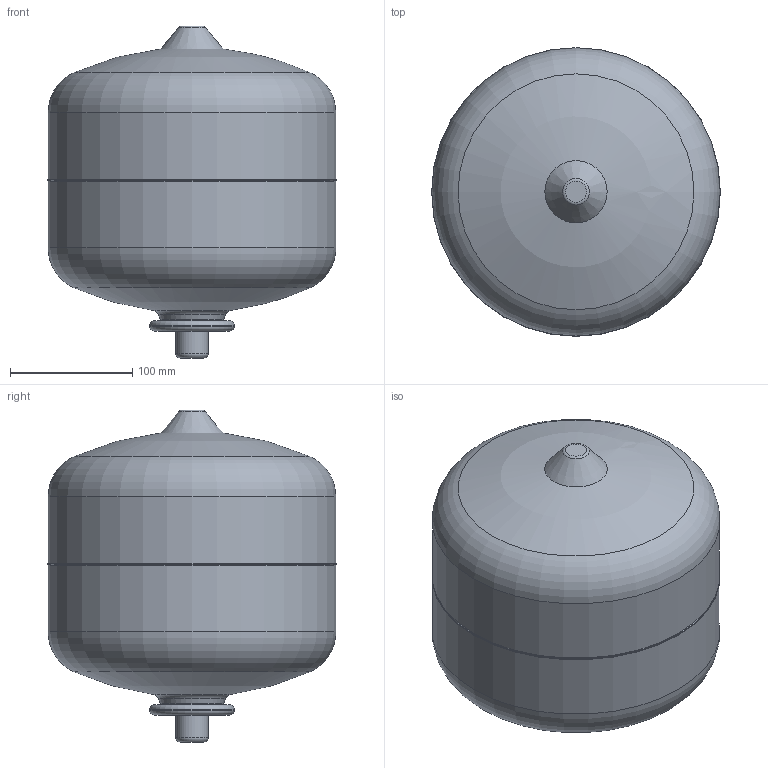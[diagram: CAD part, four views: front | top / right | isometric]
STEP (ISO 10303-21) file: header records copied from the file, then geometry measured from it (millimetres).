
FILE_DESCRIPTION(('STEP AP203'), '1');
FILE_NAME('306518.001-VT.A.R.050008', '2024-08-19T12:13:55', ('IT'), ('VESTA'), 'C3D Converter', 'C3D Toolkit', '');
FILE_SCHEMA(('CONFIG_CONTROL_DESIGN'));
Length unit declared in the file: millimetre
Bounding box: 235.8 x 235.8 x 271.18 mm (x, y, z)
Volume: 8033719.5 mm3; surface area: 209535.5 mm2
Topology: 1 solids, 1 shells, 35 faces, 97 edges, 68 vertices
Faces by surface type: torus 16, cylinder 8, plane 6, cone 3, sphere 2
Full cylindrical faces by diameter (mm): 16 x1, 21.5 x1, 26.441 x1, 55.9 x1, 69 x1, 235 x2, 235.8 x1
Entity records: 1065 total; most frequent: DIRECTION 208, CARTESIAN_POINT 172, ORIENTED_EDGE 136, AXIS2_PLACEMENT_3D 104, FACE_BOUND 68, EDGE_LOOP 68, EDGE_CURVE 68, VERTEX_POINT 68
